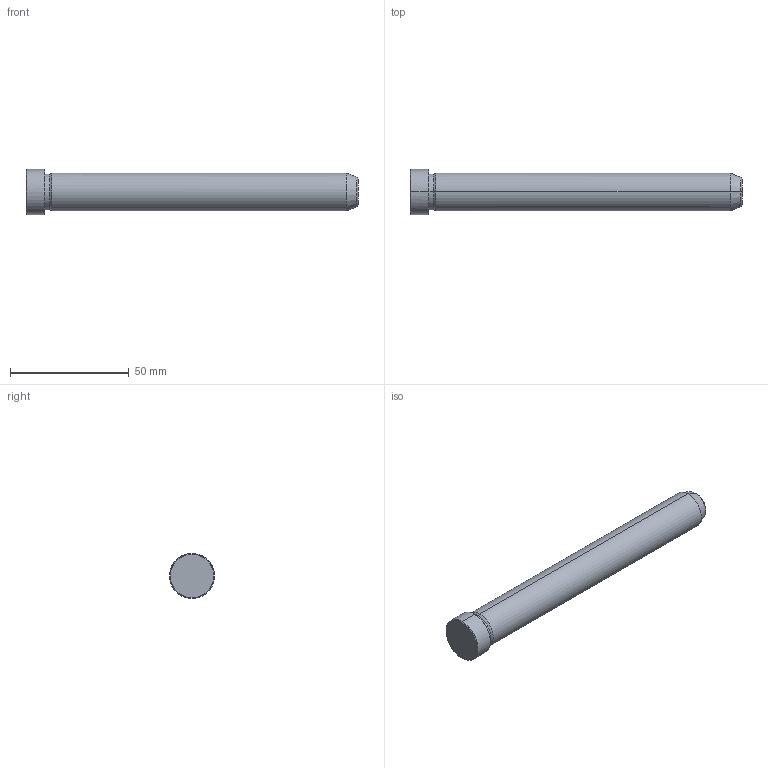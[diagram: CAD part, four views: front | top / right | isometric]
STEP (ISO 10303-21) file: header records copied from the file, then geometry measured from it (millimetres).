
FILE_DESCRIPTION(('CATIA V5 STEP Exchange'),'2;1');
FILE_NAME('C:\Users\Utente\Desktop\IO LAVORO\3D X SITO CF\X SITO\PLASTICA\549\549-16X140.stp','2021-12-11T09:32:17+00:00',('none'),('none'),'CATIA Version 5 Release 20 GA (IN-10)','CATIA V5 STEP AP203','none');
FILE_SCHEMA(('CONFIG_CONTROL_DESIGN'));
Length unit declared in the file: millimetre
Products named in the file (1): 549-16X140
Bounding box: 140 x 19 x 19 mm (x, y, z)
Volume: 28508.2 mm3; surface area: 7572.1 mm2
Topology: 1 solids, 1 shells, 19 faces, 56 edges, 40 vertices
Faces by surface type: cone 8, cylinder 6, plane 3, torus 2
Entity records: 736 total; most frequent: CARTESIAN_POINT 192, ORIENTED_EDGE 112, DIRECTION 86, EDGE_CURVE 56, AXIS2_PLACEMENT_3D 54, VERTEX_POINT 40, CIRCLE 34, EDGE_LOOP 20
